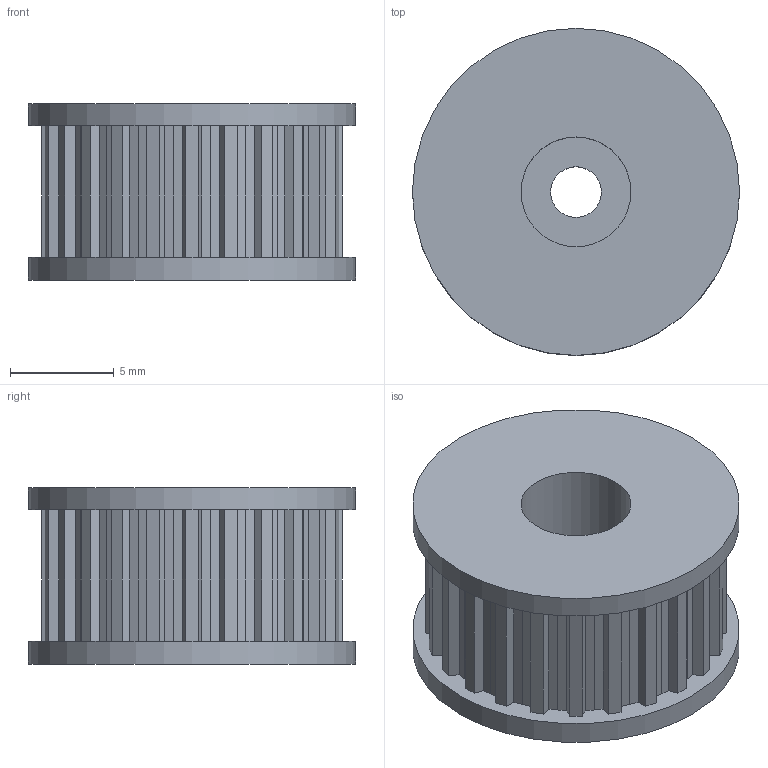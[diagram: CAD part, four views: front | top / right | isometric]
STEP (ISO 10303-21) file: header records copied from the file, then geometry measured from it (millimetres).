
FILE_DESCRIPTION(('Open CASCADE Model'),'2;1');
FILE_NAME('Open CASCADE Shape Model','2026-11-24T20:33:36',('Author'),( 'Open CASCADE'),'Open CASCADE STEP processor 7.8','Open CASCADE 7.8' ,'Unknown');
FILE_SCHEMA(('AUTOMOTIVE_DESIGN { 1 0 10303 214 1 1 1 1 }'));
Length unit declared in the file: millimetre
Products named in the file (1): Open CASCADE STEP translator 7.8 5
Bounding box: 15.78 x 15.78 x 8.5 mm (x, y, z)
Volume: 1214.7 mm3; surface area: 1129.3 mm2
Topology: 1 solids, 1 shells, 133 faces, 378 edges, 252 vertices
Faces by surface type: plane 127, cylinder 6
Full cylindrical faces by diameter (mm): 1.9 x2, 2.44 x1, 5.3 x1, 15.779 x2
Entity records: 9172 total; most frequent: CARTESIAN_POINT 1520, DIRECTION 1414, LINE 1110, VECTOR 1110, ORIENTED_EDGE 756, PCURVE 756, DEFINITIONAL_REPRESENTATION 756, EDGE_CURVE 378
